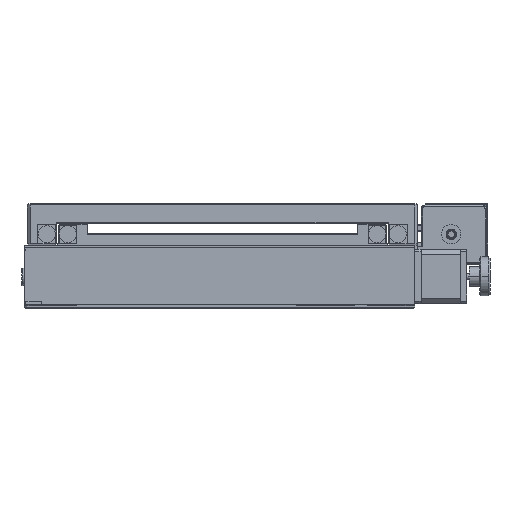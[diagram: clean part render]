
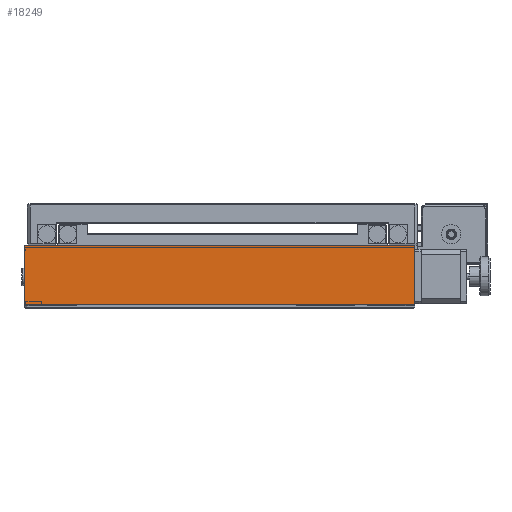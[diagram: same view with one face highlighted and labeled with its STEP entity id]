
A CAD part, top view. The second image highlights one B-rep face of the part: STEP entity #18249.
In plain terms, the highlighted planar face has unit normal (0, 0, 1).
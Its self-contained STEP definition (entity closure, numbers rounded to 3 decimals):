
#175 = DIRECTION ( 'NONE',  ( 0., -1., 0. ) ) ;
#2170 = CARTESIAN_POINT ( 'NONE',  ( -150., 47.5, 204. ) ) ;
#4260 = VECTOR ( 'NONE', #16390, 1000. ) ;
#4484 = CARTESIAN_POINT ( 'NONE',  ( 150., 47.5, 204. ) ) ;
#4602 = LINE ( 'NONE', #2170, #27485 ) ;
#4890 = AXIS2_PLACEMENT_3D ( 'NONE', #26815, #13555, #175 ) ;
#6199 = CARTESIAN_POINT ( 'NONE',  ( 150., 2.5, 204. ) ) ;
#8123 = VECTOR ( 'NONE', #16083, 1000. ) ;
#10236 = EDGE_CURVE ( 'NONE', #12404, #26497, #21955, .T. ) ;
#11306 = PLANE ( 'NONE',  #4890 ) ;
#12039 = LINE ( 'NONE', #13175, #28328 ) ;
#12379 = ORIENTED_EDGE ( 'NONE', *, *, #20771, .F. ) ;
#12404 = VERTEX_POINT ( 'NONE', #6199 ) ;
#12477 = ORIENTED_EDGE ( 'NONE', *, *, #25281, .F. ) ;
#12868 = ORIENTED_EDGE ( 'NONE', *, *, #10236, .T. ) ;
#13175 = CARTESIAN_POINT ( 'NONE',  ( -150., 2.5, 204. ) ) ;
#13398 = DIRECTION ( 'NONE',  ( 1., 0., 0. ) ) ;
#13555 = DIRECTION ( 'NONE',  ( 0., 0., -1. ) ) ;
#15328 = ORIENTED_EDGE ( 'NONE', *, *, #19574, .T. ) ;
#15585 = CARTESIAN_POINT ( 'NONE',  ( -150., 47.5, 204. ) ) ;
#16083 = DIRECTION ( 'NONE',  ( 0., 1., 0. ) ) ;
#16390 = DIRECTION ( 'NONE',  ( 0., 1., 0. ) ) ;
#16479 = CARTESIAN_POINT ( 'NONE',  ( 150., 2.5, 204. ) ) ;
#18249 = ADVANCED_FACE ( 'NONE', ( #22784 ), #11306, .F. ) ;
#18329 = CARTESIAN_POINT ( 'NONE',  ( -150., 2.5, 204. ) ) ;
#18506 = EDGE_LOOP ( 'NONE', ( #12868, #12477, #12379, #15328 ) ) ;
#19574 = EDGE_CURVE ( 'NONE', #28761, #12404, #12039, .T. ) ;
#19642 = VERTEX_POINT ( 'NONE', #15585 ) ;
#19927 = LINE ( 'NONE', #18329, #8123 ) ;
#20771 = EDGE_CURVE ( 'NONE', #28761, #19642, #19927, .T. ) ;
#21955 = LINE ( 'NONE', #16479, #4260 ) ;
#22784 = FACE_OUTER_BOUND ( 'NONE', #18506, .T. ) ;
#23686 = CARTESIAN_POINT ( 'NONE',  ( -150., 2.5, 204. ) ) ;
#24177 = DIRECTION ( 'NONE',  ( 1., 0., 0. ) ) ;
#25281 = EDGE_CURVE ( 'NONE', #19642, #26497, #4602, .T. ) ;
#26497 = VERTEX_POINT ( 'NONE', #4484 ) ;
#26815 = CARTESIAN_POINT ( 'NONE',  ( -150., 2.5, 204. ) ) ;
#27485 = VECTOR ( 'NONE', #13398, 1000. ) ;
#28328 = VECTOR ( 'NONE', #24177, 1000. ) ;
#28761 = VERTEX_POINT ( 'NONE', #23686 ) ;
